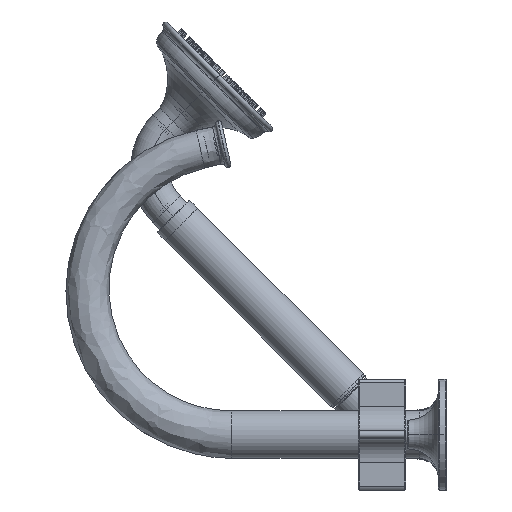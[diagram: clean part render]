
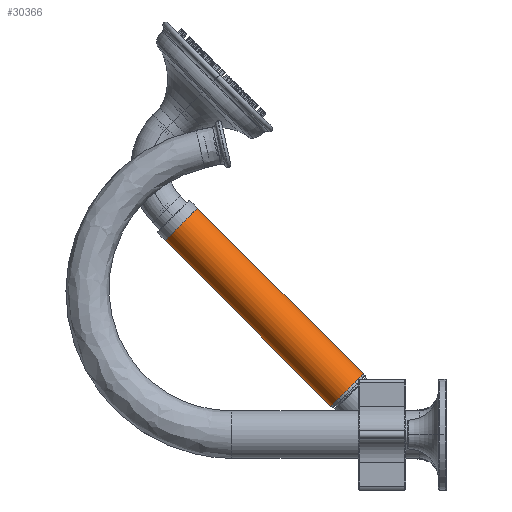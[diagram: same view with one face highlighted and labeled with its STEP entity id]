
A CAD part, left-side view. The second image highlights one B-rep face of the part: STEP entity #30366.
In plain terms, the highlighted cylindrical face has radius 12 mm (diameter 24 mm), a partial arc.
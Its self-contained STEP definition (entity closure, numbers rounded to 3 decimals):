
#22124=CARTESIAN_POINT('',(600.,138.384,109.884));
#22125=DIRECTION('',(0.,0.707,0.707));
#22126=DIRECTION('',(0.,0.707,-0.707));
#22127=AXIS2_PLACEMENT_3D('',#22124,#22125,#22126);
#22132=DIRECTION('',(0.,0.707,0.707));
#22133=VECTOR('',#22132,122.5);
#22134=CARTESIAN_POINT('',(600.,43.279,31.749));
#22135=LINE('',#22134,#22133);
#22147=CARTESIAN_POINT('',(600.,51.764,23.264));
#22148=DIRECTION('',(0.,0.707,0.707));
#22149=DIRECTION('',(0.,0.707,-0.707));
#22150=AXIS2_PLACEMENT_3D('',#22147,#22148,#22149);
#22171=DIRECTION('',(0.,0.707,0.707));
#22172=VECTOR('',#22171,122.5);
#22173=CARTESIAN_POINT('',(600.,60.249,14.779));
#22174=LINE('',#22173,#22172);
#24081=CARTESIAN_POINT('',(600.,43.279,31.749));
#24082=CARTESIAN_POINT('',(600.,60.249,14.779));
#24083=VERTEX_POINT('',#24081);
#24084=VERTEX_POINT('',#24082);
#24085=CARTESIAN_POINT('',(600.,129.899,118.37));
#24086=CARTESIAN_POINT('',(600.,146.87,101.399));
#24087=VERTEX_POINT('',#24085);
#24088=VERTEX_POINT('',#24086);
#30355=CARTESIAN_POINT('',(600.,51.764,23.264));
#30356=DIRECTION('',(0.,0.707,0.707));
#30357=DIRECTION('',(0.,-0.707,0.707));
#30358=AXIS2_PLACEMENT_3D('',#30355,#30356,#30357);
#30359=CYLINDRICAL_SURFACE('',#30358,12.);
#30360=ORIENTED_EDGE('',*,*,#30344,.F.);
#30361=ORIENTED_EDGE('',*,*,#30333,.T.);
#30362=ORIENTED_EDGE('',*,*,#30313,.T.);
#30363=ORIENTED_EDGE('',*,*,#30330,.F.);
#30364=EDGE_LOOP('',(#30360,#30361,#30362,#30363));
#30365=FACE_OUTER_BOUND('',#30364,.F.);
#22128=CIRCLE('',#22127,12.);
#22151=CIRCLE('',#22150,12.);
#30313=EDGE_CURVE('',#24088,#24087,#22128,.T.);
#30330=EDGE_CURVE('',#24083,#24087,#22135,.T.);
#30333=EDGE_CURVE('',#24084,#24088,#22174,.T.);
#30344=EDGE_CURVE('',#24084,#24083,#22151,.T.);
#30366=ADVANCED_FACE('',(#30365),#30359,.T.);
